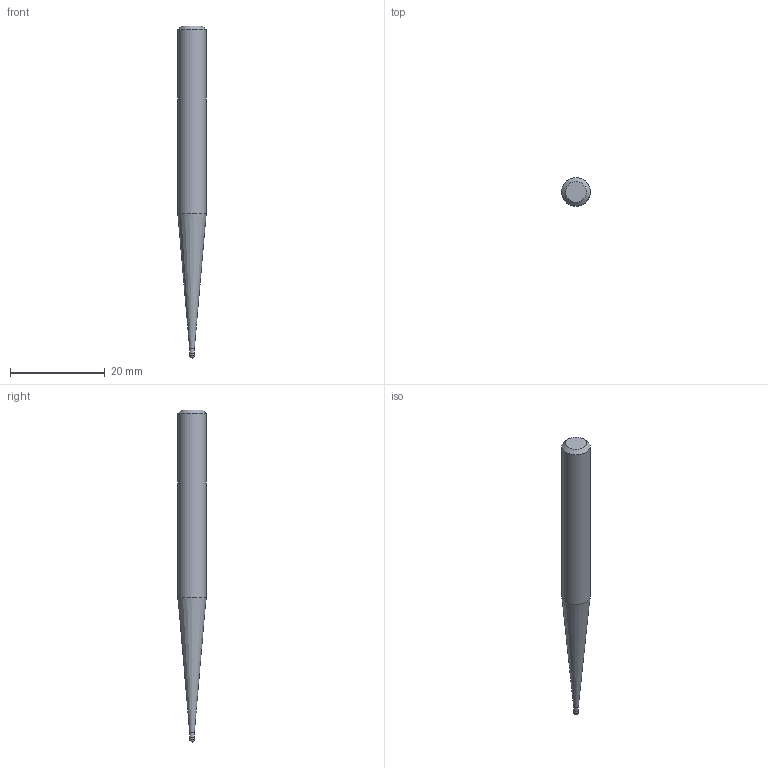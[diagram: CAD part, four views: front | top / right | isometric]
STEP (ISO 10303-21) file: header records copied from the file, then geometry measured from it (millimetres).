
FILE_DESCRIPTION((''),'2;1');
FILE_NAME('C:\Users\nsx150\AppData\Local\Temp\Mastercam 2021\SNAKH10GOD\TEMP.step','2021-10-21T13:32:29',(''),(''),'STEP Write','Mastercam 2021 ... CNC Software, Inc.','');
FILE_SCHEMA(('AUTOMOTIVE_DESIGN'));
Length unit declared in the file: millimetre
Products named in the file (1): None
Bounding box: 6 x 6 x 70 mm (x, y, z)
Volume: 1432.7 mm3; surface area: 1084.9 mm2
Topology: 2 solids, 2 shells, 9 faces, 14 edges, 8 vertices
Faces by surface type: plane 3, cylinder 3, cone 2, sphere 1
Full cylindrical faces by diameter (mm): 0.985 x1, 1 x1, 6 x1
Entity records: 211 total; most frequent: DIRECTION 36, CARTESIAN_POINT 25, AXIS2_PLACEMENT_3D 18, ORIENTED_EDGE 14, EDGE_LOOP 14, STYLED_ITEM 12, ADVANCED_FACE 9, FACE_BOUND 8
